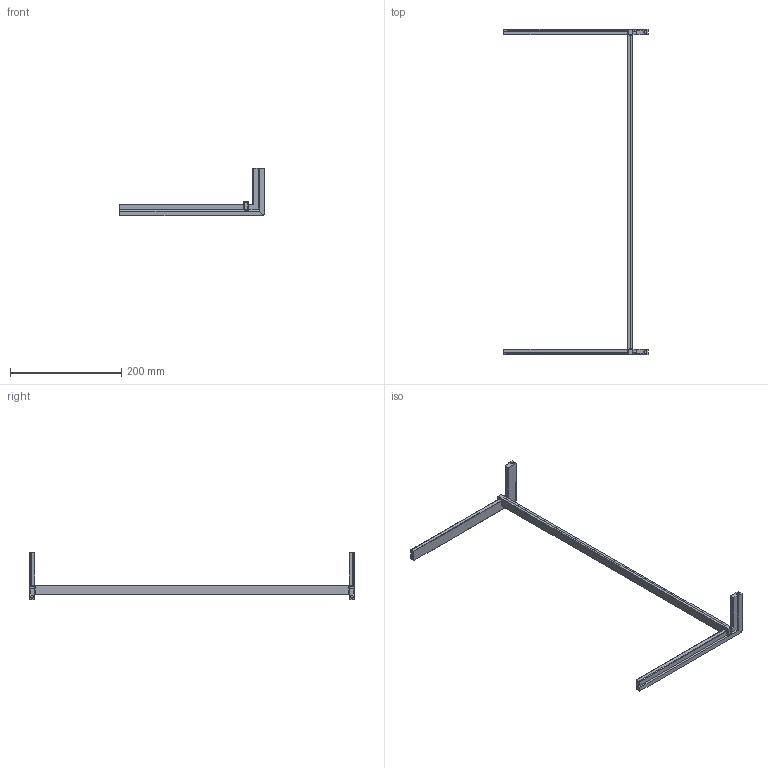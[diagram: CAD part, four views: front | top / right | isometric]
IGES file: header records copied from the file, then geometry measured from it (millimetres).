
Start section: C
Global section: file name: 8314.igs; native system: By Siemens PLM Incorporated; preprocessor: XPlus GENERIC/IGES 16.0.42; author: Author; organization: Title; date: 20230831.113847; units: millimetre
Bounding box: 260.16 x 585.99 x 85.16 mm (x, y, z)
Surface area: 109500.4 mm2 (no closed solid volume)
Topology: 0 solids, 0 shells, 117 faces, 574 edges, 574 vertices
Faces by surface type: bspline 117
